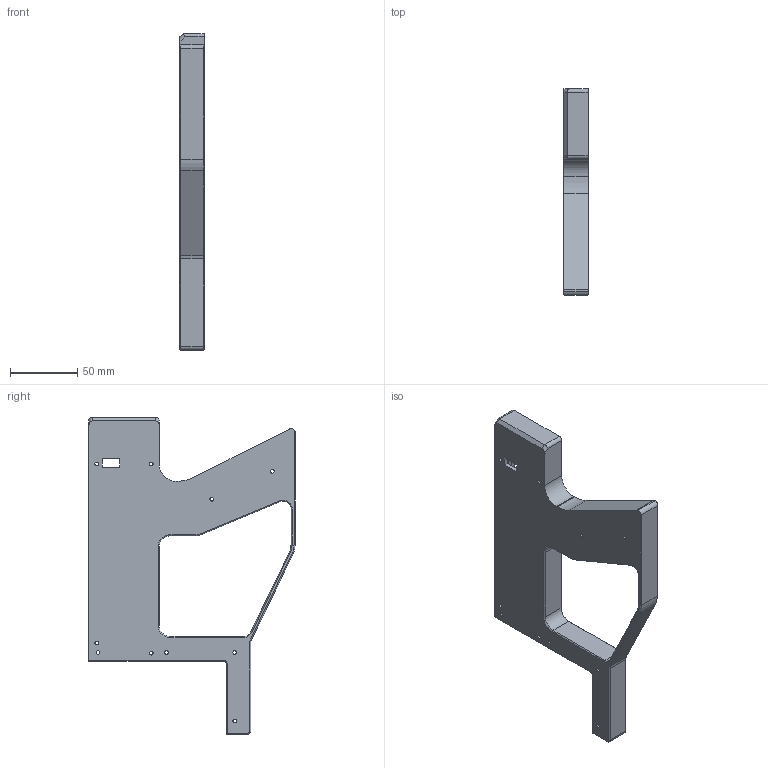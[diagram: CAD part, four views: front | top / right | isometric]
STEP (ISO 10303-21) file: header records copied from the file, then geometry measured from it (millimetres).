
FILE_DESCRIPTION (( 'STEP AP214' ), '1' );
FILE_NAME ('Frame.STEP', '2021-06-11T04:47:38', ( '' ), ( '' ), 'SwSTEP 2.0', 'SolidWorks 2016', '' );
FILE_SCHEMA (( 'AUTOMOTIVE_DESIGN' ));
Length unit declared in the file: inch
Products named in the file (1): Frame
Bounding box: 18 x 153.28 x 235.27 mm (x, y, z)
Volume: 166254.1 mm3; surface area: 60452.5 mm2
Topology: 1 solids, 1 shells, 144 faces, 378 edges, 237 vertices
Faces by surface type: plane 80, cylinder 43, cone 21
Entity records: 4473 total; most frequent: CARTESIAN_POINT 790, DIRECTION 757, ORIENTED_EDGE 756, EDGE_CURVE 378, LINE 269, VECTOR 269, AXIS2_PLACEMENT_3D 244, VERTEX_POINT 237
